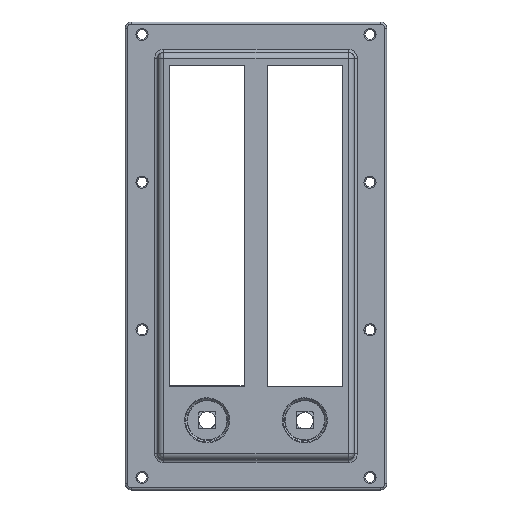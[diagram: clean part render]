
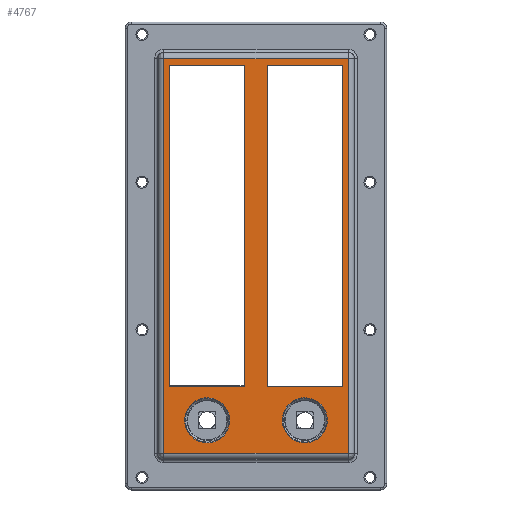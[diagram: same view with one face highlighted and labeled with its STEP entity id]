
A CAD part, front view. The second image highlights one B-rep face of the part: STEP entity #4767.
In plain terms, the highlighted planar face has unit normal (0, -1, 0).
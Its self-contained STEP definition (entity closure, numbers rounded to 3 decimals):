
#3967=CARTESIAN_POINT('',(45.814,-16.5,98.264));
#3968=VERTEX_POINT('',#3967);
#3976=CARTESIAN_POINT('',(45.814,-16.5,-98.264));
#3977=VERTEX_POINT('',#3976);
#3978=CARTESIAN_POINT('',(45.814,-16.5,98.264));
#3979=DIRECTION('',(0.,0.,-1.));
#3980=VECTOR('',#3979,196.528);
#3981=LINE('',#3978,#3980);
#3982=EDGE_CURVE('',#3968,#3977,#3981,.T.);
#4030=CARTESIAN_POINT('',(-45.814,-16.5,-98.264));
#4031=VERTEX_POINT('',#4030);
#4032=CARTESIAN_POINT('',(45.814,-16.5,-98.264));
#4033=DIRECTION('',(-1.,0.,0.));
#4034=VECTOR('',#4033,91.628);
#4035=LINE('',#4032,#4034);
#4036=EDGE_CURVE('',#3977,#4031,#4035,.T.);
#4084=CARTESIAN_POINT('',(-45.814,-16.5,98.264));
#4085=VERTEX_POINT('',#4084);
#4086=CARTESIAN_POINT('',(-45.814,-16.5,-98.264));
#4087=DIRECTION('',(0.,0.,1.));
#4088=VECTOR('',#4087,196.528);
#4089=LINE('',#4086,#4088);
#4090=EDGE_CURVE('',#4031,#4085,#4089,.T.);
#4138=CARTESIAN_POINT('',(-45.814,-16.5,98.264));
#4139=DIRECTION('',(1.,0.,0.));
#4140=VECTOR('',#4139,91.628);
#4141=LINE('',#4138,#4140);
#4142=EDGE_CURVE('',#4085,#3968,#4141,.T.);
#4612=CARTESIAN_POINT('',(0.,-16.5,0.));
#4613=DIRECTION('',(0.,0.,1.));
#4614=DIRECTION('',(0.,-1.,0.));
#4615=AXIS2_PLACEMENT_3D('',#4612,#4614,#4613);
#4616=PLANE('',#4615);
#4617=ORIENTED_EDGE('',*,*,#4036,.F.);
#4618=ORIENTED_EDGE('',*,*,#3982,.F.);
#4619=ORIENTED_EDGE('',*,*,#4142,.F.);
#4620=ORIENTED_EDGE('',*,*,#4090,.F.);
#4621=EDGE_LOOP('',(#4617,#4618,#4619,#4620));
#4622=FACE_OUTER_BOUND('',#4621,.T.);
#4623=CARTESIAN_POINT('',(43.05,-16.5,95.));
#4624=VERTEX_POINT('',#4623);
#4625=CARTESIAN_POINT('',(43.05,-16.5,-65.));
#4626=VERTEX_POINT('',#4625);
#4627=CARTESIAN_POINT('',(43.05,-16.5,95.));
#4628=DIRECTION('',(0.,0.,-1.));
#4629=VECTOR('',#4628,160.);
#4630=LINE('',#4627,#4629);
#4631=EDGE_CURVE('',#4624,#4626,#4630,.T.);
#4632=ORIENTED_EDGE('E305',*,*,#4631,.T.);
#4633=CARTESIAN_POINT('',(5.55,-16.5,-65.));
#4634=VERTEX_POINT('',#4633);
#4635=CARTESIAN_POINT('',(43.05,-16.5,-65.));
#4636=DIRECTION('',(-1.,0.,0.));
#4637=VECTOR('',#4636,37.5);
#4638=LINE('',#4635,#4637);
#4639=EDGE_CURVE('',#4626,#4634,#4638,.T.);
#4640=ORIENTED_EDGE('E306',*,*,#4639,.T.);
#4641=CARTESIAN_POINT('',(5.55,-16.5,95.));
#4642=VERTEX_POINT('',#4641);
#4643=CARTESIAN_POINT('',(5.55,-16.5,-65.));
#4644=DIRECTION('',(0.,0.,1.));
#4645=VECTOR('',#4644,160.);
#4646=LINE('',#4643,#4645);
#4647=EDGE_CURVE('',#4634,#4642,#4646,.T.);
#4648=ORIENTED_EDGE('E307',*,*,#4647,.T.);
#4649=CARTESIAN_POINT('',(5.55,-16.5,95.));
#4650=DIRECTION('',(1.,0.,0.));
#4651=VECTOR('',#4650,37.5);
#4652=LINE('',#4649,#4651);
#4653=EDGE_CURVE('',#4642,#4624,#4652,.T.);
#4654=ORIENTED_EDGE('E308',*,*,#4653,.T.);
#4655=EDGE_LOOP('',(#4632,#4640,#4648,#4654));
#4656=FACE_BOUND('',#4655,.T.);
#4657=CARTESIAN_POINT('',(-5.55,-16.5,95.));
#4658=VERTEX_POINT('',#4657);
#4659=CARTESIAN_POINT('',(-5.55,-16.5,-65.));
#4660=VERTEX_POINT('',#4659);
#4661=CARTESIAN_POINT('',(-5.55,-16.5,95.));
#4662=DIRECTION('',(0.,0.,-1.));
#4663=VECTOR('',#4662,160.);
#4664=LINE('',#4661,#4663);
#4665=EDGE_CURVE('',#4658,#4660,#4664,.T.);
#4666=ORIENTED_EDGE('E309',*,*,#4665,.T.);
#4667=CARTESIAN_POINT('',(-43.05,-16.5,-65.));
#4668=VERTEX_POINT('',#4667);
#4669=CARTESIAN_POINT('',(-5.55,-16.5,-65.));
#4670=DIRECTION('',(-1.,0.,0.));
#4671=VECTOR('',#4670,37.5);
#4672=LINE('',#4669,#4671);
#4673=EDGE_CURVE('',#4660,#4668,#4672,.T.);
#4674=ORIENTED_EDGE('E310',*,*,#4673,.T.);
#4675=CARTESIAN_POINT('',(-43.05,-16.5,95.));
#4676=VERTEX_POINT('',#4675);
#4677=CARTESIAN_POINT('',(-43.05,-16.5,-65.));
#4678=DIRECTION('',(0.,0.,1.));
#4679=VECTOR('',#4678,160.);
#4680=LINE('',#4677,#4679);
#4681=EDGE_CURVE('',#4668,#4676,#4680,.T.);
#4682=ORIENTED_EDGE('E311',*,*,#4681,.T.);
#4683=CARTESIAN_POINT('',(-43.05,-16.5,95.));
#4684=DIRECTION('',(1.,0.,0.));
#4685=VECTOR('',#4684,37.5);
#4686=LINE('',#4683,#4685);
#4687=EDGE_CURVE('',#4676,#4658,#4686,.T.);
#4688=ORIENTED_EDGE('E312',*,*,#4687,.T.);
#4689=EDGE_LOOP('',(#4666,#4674,#4682,#4688));
#4690=FACE_BOUND('',#4689,.T.);
#4691=CARTESIAN_POINT('',(-24.956,-16.5,-70.612));
#4692=VERTEX_POINT('',#4691);
#4693=CARTESIAN_POINT('',(-24.3,-16.5,-70.593));
#4694=VERTEX_POINT('',#4693);
#4695=CARTESIAN_POINT('',(-24.956,-16.5,-70.612));
#4696=CARTESIAN_POINT('',(-24.738,-16.5,-70.599));
#4697=CARTESIAN_POINT('',(-24.519,-16.5,-70.593));
#4698=CARTESIAN_POINT('',(-24.3,-16.5,-70.593));
#4699=(BOUNDED_CURVE()B_SPLINE_CURVE(3,(#4695,#4696,#4697,#4698),.UNSPECIFIED.,.F.,.U.)B_SPLINE_CURVE_WITH_KNOTS((4,4),(0.,1.),.UNSPECIFIED.)CURVE()GEOMETRIC_REPRESENTATION_ITEM()RATIONAL_B_SPLINE_CURVE((1.,1.,1.,1.))REPRESENTATION_ITEM(''));
#4700=EDGE_CURVE('',#4692,#4694,#4699,.T.);
#4701=ORIENTED_EDGE('E313',*,*,#4700,.T.);
#4702=CARTESIAN_POINT('',(-23.644,-16.5,-92.988));
#4703=VERTEX_POINT('',#4702);
#4704=CARTESIAN_POINT('',(-24.3,-16.5,-70.593));
#4705=CARTESIAN_POINT('',(-3.135,-16.5,-70.593));
#4706=CARTESIAN_POINT('',(-2.515,-16.5,-91.749));
#4707=CARTESIAN_POINT('',(-23.644,-16.5,-92.988));
#4708=(BOUNDED_CURVE()B_SPLINE_CURVE(3,(#4704,#4705,#4706,#4707),.UNSPECIFIED.,.F.,.U.)B_SPLINE_CURVE_WITH_KNOTS((4,4),(0.,1.),.UNSPECIFIED.)CURVE()GEOMETRIC_REPRESENTATION_ITEM()RATIONAL_B_SPLINE_CURVE((1.,0.353,0.353,1.))REPRESENTATION_ITEM(''));
#4709=EDGE_CURVE('',#4694,#4703,#4708,.T.);
#4710=ORIENTED_EDGE('E314',*,*,#4709,.T.);
#4711=CARTESIAN_POINT('',(-24.3,-16.5,-93.007));
#4712=VERTEX_POINT('',#4711);
#4713=CARTESIAN_POINT('',(-23.644,-16.5,-92.988));
#4714=CARTESIAN_POINT('',(-23.862,-16.5,-93.001));
#4715=CARTESIAN_POINT('',(-24.081,-16.5,-93.007));
#4716=CARTESIAN_POINT('',(-24.3,-16.5,-93.007));
#4717=(BOUNDED_CURVE()B_SPLINE_CURVE(3,(#4713,#4714,#4715,#4716),.UNSPECIFIED.,.F.,.U.)B_SPLINE_CURVE_WITH_KNOTS((4,4),(0.,1.),.UNSPECIFIED.)CURVE()GEOMETRIC_REPRESENTATION_ITEM()RATIONAL_B_SPLINE_CURVE((1.,1.,1.,1.))REPRESENTATION_ITEM(''));
#4718=EDGE_CURVE('',#4703,#4712,#4717,.T.);
#4719=ORIENTED_EDGE('E315',*,*,#4718,.T.);
#4720=CARTESIAN_POINT('',(-24.3,-16.5,-93.007));
#4721=CARTESIAN_POINT('',(-45.465,-16.5,-93.007));
#4722=CARTESIAN_POINT('',(-46.085,-16.5,-71.851));
#4723=CARTESIAN_POINT('',(-24.956,-16.5,-70.612));
#4724=(BOUNDED_CURVE()B_SPLINE_CURVE(3,(#4720,#4721,#4722,#4723),.UNSPECIFIED.,.F.,.U.)B_SPLINE_CURVE_WITH_KNOTS((4,4),(0.,1.),.UNSPECIFIED.)CURVE()GEOMETRIC_REPRESENTATION_ITEM()RATIONAL_B_SPLINE_CURVE((1.,0.353,0.353,1.))REPRESENTATION_ITEM(''));
#4725=EDGE_CURVE('',#4712,#4692,#4724,.T.);
#4726=ORIENTED_EDGE('E316',*,*,#4725,.T.);
#4727=EDGE_LOOP('',(#4701,#4710,#4719,#4726));
#4728=FACE_BOUND('',#4727,.T.);
#4729=CARTESIAN_POINT('',(23.644,-16.5,-70.612));
#4730=VERTEX_POINT('',#4729);
#4731=CARTESIAN_POINT('',(24.3,-16.5,-70.593));
#4732=VERTEX_POINT('',#4731);
#4733=CARTESIAN_POINT('',(23.644,-16.5,-70.612));
#4734=CARTESIAN_POINT('',(23.862,-16.5,-70.599));
#4735=CARTESIAN_POINT('',(24.081,-16.5,-70.593));
#4736=CARTESIAN_POINT('',(24.3,-16.5,-70.593));
#4737=(BOUNDED_CURVE()B_SPLINE_CURVE(3,(#4733,#4734,#4735,#4736),.UNSPECIFIED.,.F.,.U.)B_SPLINE_CURVE_WITH_KNOTS((4,4),(0.,1.),.UNSPECIFIED.)CURVE()GEOMETRIC_REPRESENTATION_ITEM()RATIONAL_B_SPLINE_CURVE((1.,1.,1.,1.))REPRESENTATION_ITEM(''));
#4738=EDGE_CURVE('',#4730,#4732,#4737,.T.);
#4739=ORIENTED_EDGE('E317',*,*,#4738,.T.);
#4740=CARTESIAN_POINT('',(24.956,-16.5,-92.988));
#4741=VERTEX_POINT('',#4740);
#4742=CARTESIAN_POINT('',(24.3,-16.5,-70.593));
#4743=CARTESIAN_POINT('',(45.465,-16.5,-70.593));
#4744=CARTESIAN_POINT('',(46.085,-16.5,-91.749));
#4745=CARTESIAN_POINT('',(24.956,-16.5,-92.988));
#4746=(BOUNDED_CURVE()B_SPLINE_CURVE(3,(#4742,#4743,#4744,#4745),.UNSPECIFIED.,.F.,.U.)B_SPLINE_CURVE_WITH_KNOTS((4,4),(0.,1.),.UNSPECIFIED.)CURVE()GEOMETRIC_REPRESENTATION_ITEM()RATIONAL_B_SPLINE_CURVE((1.,0.353,0.353,1.))REPRESENTATION_ITEM(''));
#4747=EDGE_CURVE('',#4732,#4741,#4746,.T.);
#4748=ORIENTED_EDGE('E318',*,*,#4747,.T.);
#4749=CARTESIAN_POINT('',(24.3,-16.5,-93.007));
#4750=VERTEX_POINT('',#4749);
#4751=CARTESIAN_POINT('',(24.956,-16.5,-92.988));
#4752=CARTESIAN_POINT('',(24.738,-16.5,-93.001));
#4753=CARTESIAN_POINT('',(24.519,-16.5,-93.007));
#4754=CARTESIAN_POINT('',(24.3,-16.5,-93.007));
#4755=(BOUNDED_CURVE()B_SPLINE_CURVE(3,(#4751,#4752,#4753,#4754),.UNSPECIFIED.,.F.,.U.)B_SPLINE_CURVE_WITH_KNOTS((4,4),(0.,1.),.UNSPECIFIED.)CURVE()GEOMETRIC_REPRESENTATION_ITEM()RATIONAL_B_SPLINE_CURVE((1.,1.,1.,1.))REPRESENTATION_ITEM(''));
#4756=EDGE_CURVE('',#4741,#4750,#4755,.T.);
#4757=ORIENTED_EDGE('E319',*,*,#4756,.T.);
#4758=CARTESIAN_POINT('',(24.3,-16.5,-93.007));
#4759=CARTESIAN_POINT('',(3.135,-16.5,-93.007));
#4760=CARTESIAN_POINT('',(2.515,-16.5,-71.851));
#4761=CARTESIAN_POINT('',(23.644,-16.5,-70.612));
#4762=(BOUNDED_CURVE()B_SPLINE_CURVE(3,(#4758,#4759,#4760,#4761),.UNSPECIFIED.,.F.,.U.)B_SPLINE_CURVE_WITH_KNOTS((4,4),(0.,1.),.UNSPECIFIED.)CURVE()GEOMETRIC_REPRESENTATION_ITEM()RATIONAL_B_SPLINE_CURVE((1.,0.353,0.353,1.))REPRESENTATION_ITEM(''));
#4763=EDGE_CURVE('',#4750,#4730,#4762,.T.);
#4764=ORIENTED_EDGE('E320',*,*,#4763,.T.);
#4765=EDGE_LOOP('',(#4739,#4748,#4757,#4764));
#4766=FACE_BOUND('',#4765,.T.);
#4767=ADVANCED_FACE('F91',(#4622,#4656,#4690,#4728,#4766),#4616,.T.);
